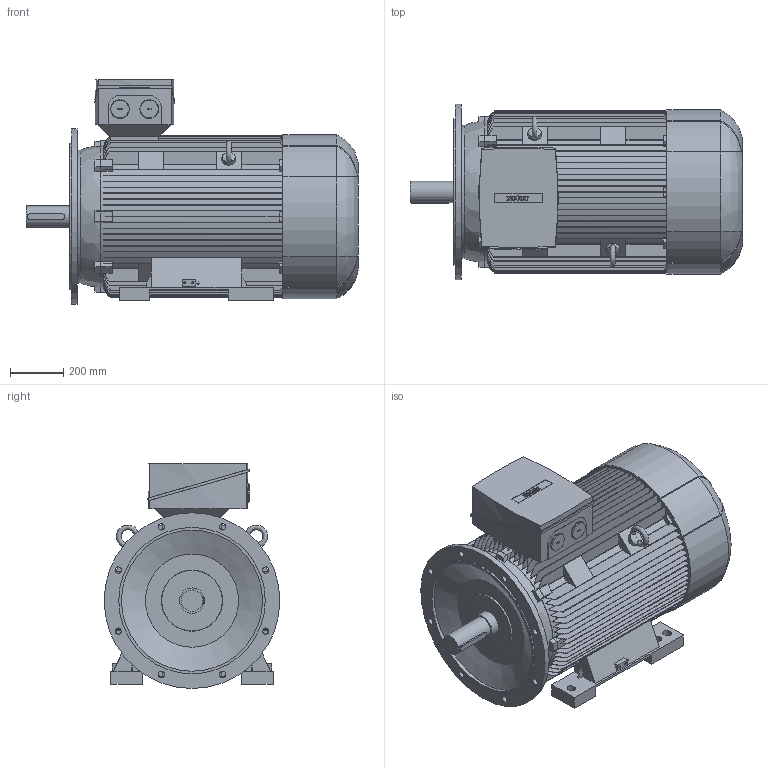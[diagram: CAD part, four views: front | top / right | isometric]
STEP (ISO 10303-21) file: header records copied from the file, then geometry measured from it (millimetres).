
FILE_DESCRIPTION (( 'STEP AP214' ), '1' );
FILE_NAME ('6RN315L08E25 IM2001.STEP', '2016-03-17T15:24:56', ( 'rotor' ), ( 'Hewlett-Packard Company' ), 'SwSTEP 2.0', 'SolidWorks 2012', '' );
FILE_SCHEMA (( 'AUTOMOTIVE_DESIGN' ));
Length unit declared in the file: millimetre
Products named in the file (1): 6RN315L08E25 IM2001
Bounding box: 1247 x 660 x 845 mm (x, y, z)
Volume: 284624148.5 mm3; surface area: 7711018 mm2
Topology: 7 solids, 7 shells, 1072 faces, 3047 edges, 2018 vertices
Faces by surface type: plane 704, bspline 196, cylinder 167, cone 5
Full cylindrical faces by diameter (mm): 8 x4, 24 x8, 50 x2, 70 x2, 80 x1, 95 x1, 500 x1, 530 x1, 550 x1, 660 x1
Entity records: 51974 total; most frequent: CARTESIAN_POINT 14541, ORIENTED_EDGE 6008, DIRECTION 4828, EDGE_CURVE 3004, VERTEX_POINT 2006, LINE 1844, VECTOR 1844, AXIS2_PLACEMENT_3D 1492
